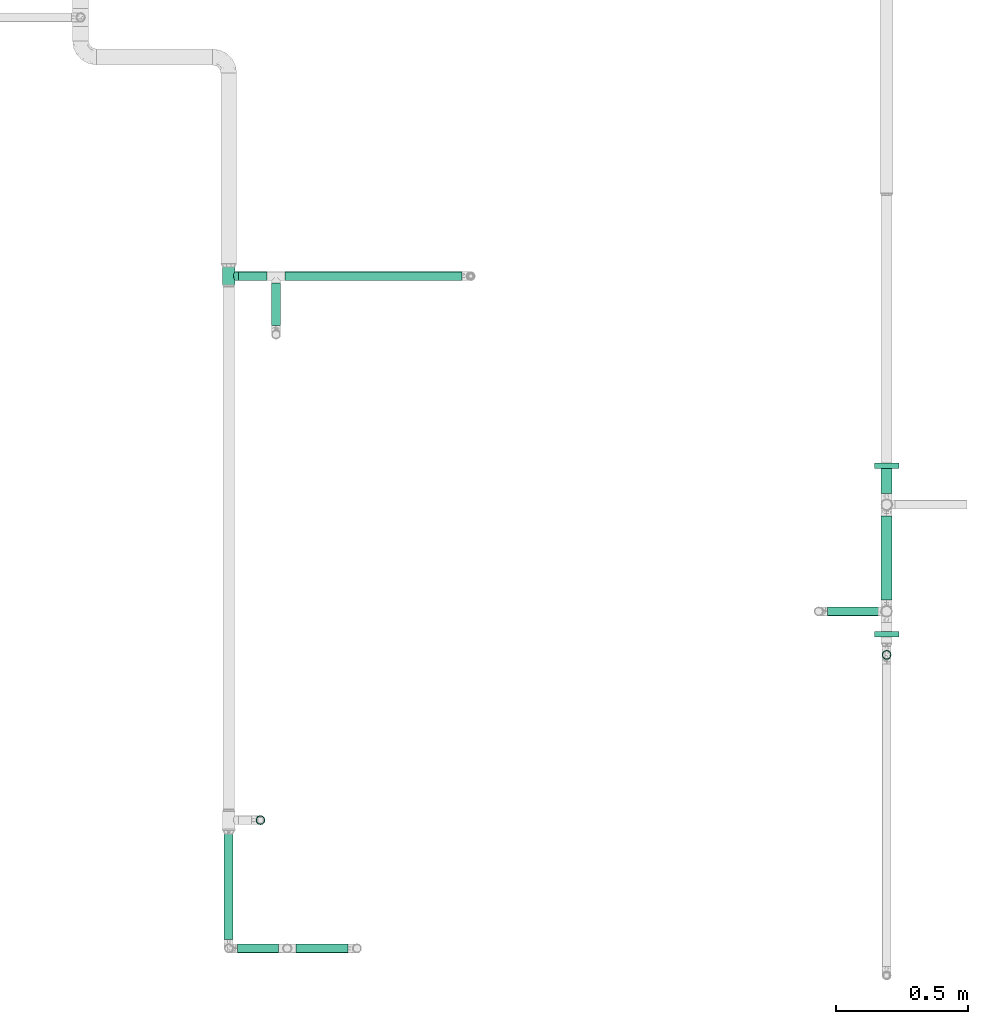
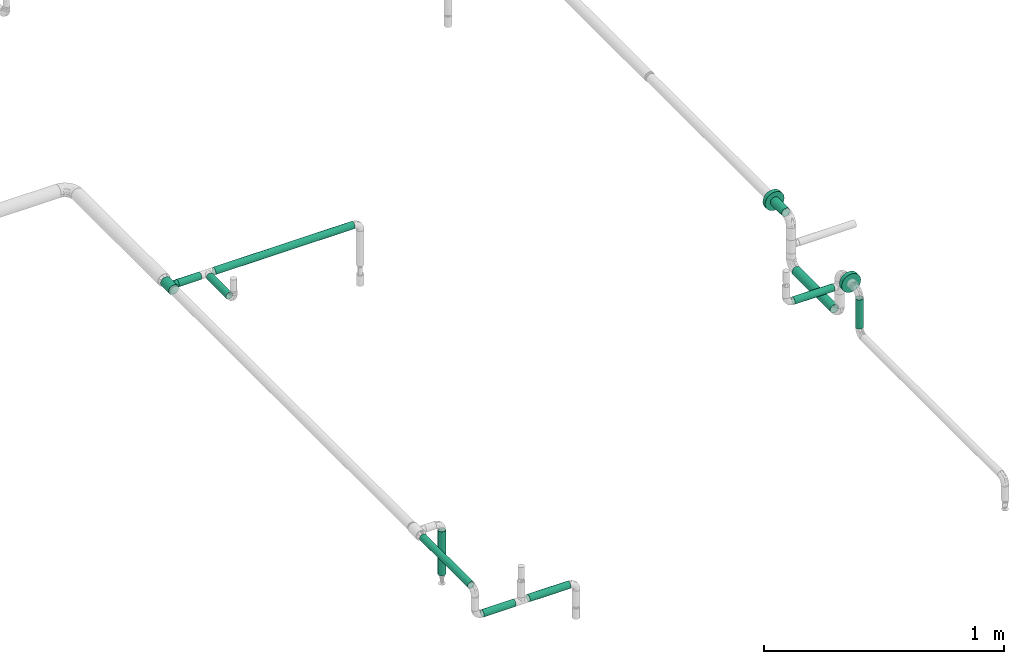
# One storey, part 2 of 43: 11 flow segments, 3 flow fittings.
"""IFC2X3 building model written with IfcOpenShell, lengths in millimetres."""

import ifcopenshell
import ifcopenshell.guid

model = None  # the IFC model being written
_history = None  # IfcOwnerHistory: only IFC2X3 demands one
_inside = {}  # id of a spatial element -> (the spatial element, [elements in it])
_under = {}  # id of a project, library or spatial element -> (it, [spatial elements below it])
_declared = {}  # id of a project -> (the project, [libraries it declares])
_typed = {}  # id of a type object -> (the type object, [elements of that type])
_made_of = {}  # id of a material, layer set ... -> (it, [elements and type objects made of it])


def new_model(schema):
    """Start an empty IFC model of exactly this schema.

    Asked for "IFC4X3", IfcOpenShell would pick the latest addendum, in which some entities
    have other attributes; the version numbers below select the first issue.
    IFC2X3 requires an IfcOwnerHistory on every rooted entity: one is made here for all.
    """
    global model, _history
    if schema == "IFC4X3":
        model = ifcopenshell.file(schema_version=(4, 3, 0, 0))
    else:
        model = ifcopenshell.file(schema=schema)
    _inside.clear()
    _under.clear()
    _declared.clear()
    _typed.clear()
    _made_of.clear()
    _history = None
    if model.schema == "IFC2X3":
        org = make("IfcOrganization", Name="unknown")
        user = make(
            "IfcPersonAndOrganization",
            ThePerson=make("IfcPerson", FamilyName="unknown"),
            TheOrganization=org,
        )
        app = make(
            "IfcApplication",
            ApplicationDeveloper=org,
            Version="unknown",
            ApplicationFullName="unknown",
            ApplicationIdentifier="unknown",
        )
        _history = make(
            "IfcOwnerHistory",
            OwningUser=user,
            OwningApplication=app,
            ChangeAction="ADDED",
            CreationDate=0,
        )
    return model


def make(cls, **values):
    """One entity of the class cls with the attributes given. An attribute that is None is left unset."""
    return model.create_entity(
        cls, **{name: value for name, value in values.items() if value is not None}
    )


def entity(cls, *values):
    """Any entity or typed value of the class cls, its attributes in the order of the schema. None: left unset."""
    e = model.create_entity(cls)
    for i, value in enumerate(values):
        if value is not None:
            e[i] = value
    return e


def rooted(cls, **values):
    """An entity with a GlobalId (a new one), such as an element, a storey or a relation."""
    return make(cls, GlobalId=ifcopenshell.guid.new(), OwnerHistory=_history, **values)


def si_unit(unit_type, name, prefix=None):
    """IfcSIUnit, for example si_unit("LENGTHUNIT", "METRE", prefix="MILLI")."""
    return make("IfcSIUnit", UnitType=unit_type, Prefix=prefix, Name=name)


def converted_unit(unit_type, name, factor, base, dimensions=None, offset=None):
    """IfcConversionBasedUnit, such as the inch: factor (a typed value) times the base unit."""
    return make(
        "IfcConversionBasedUnit"
        if offset is None
        else "IfcConversionBasedUnitWithOffset",
        ConversionOffset=offset,
        Dimensions=None
        if dimensions is None
        else entity("IfcDimensionalExponents", *dimensions),
        UnitType=unit_type,
        Name=name,
        ConversionFactor=make(
            "IfcMeasureWithUnit", ValueComponent=factor, UnitComponent=base
        ),
    )


def derived_unit(unit_type, elements):
    """IfcDerivedUnit: a product of units, each with its exponent."""
    return make(
        "IfcDerivedUnit",
        Elements=[
            make("IfcDerivedUnitElement", Unit=unit, Exponent=power)
            for unit, power in elements
        ],
        UnitType=unit_type,
    )


def assignment(units):
    """IfcUnitAssignment: the units of a project."""
    return None if units is None else make("IfcUnitAssignment", Units=units)


def point(xyz):
    """IfcCartesianPoint."""
    return None if xyz is None else make("IfcCartesianPoint", Coordinates=xyz)


def direction(xyz):
    """IfcDirection."""
    return None if xyz is None else make("IfcDirection", DirectionRatios=xyz)


def frame(location, z_axis=None, x_axis=None):
    """IfcAxis2Placement3D, a coordinate frame: its origin and axes. An axis left out is left unset."""
    return make(
        "IfcAxis2Placement3D",
        Location=point(location),
        Axis=direction(z_axis),
        RefDirection=direction(x_axis),
    )


def frame_2d(location, x_axis=None):
    """IfcAxis2Placement2D, a coordinate frame in the plane: its origin and x axis."""
    return make(
        "IfcAxis2Placement2D", Location=point(location), RefDirection=direction(x_axis)
    )


def origin_with_axes():
    """The frame at (0, 0, 0) with the z axis (0, 0, 1) and the x axis (1, 0, 0) written out."""
    return frame((0.0, 0.0, 0.0), z_axis=(0.0, 0.0, 1.0), x_axis=(1.0, 0.0, 0.0))


def origin_2d_with_axis():
    """The frame at (0, 0) in the plane with the x axis (1, 0) written out."""
    return frame_2d((0.0, 0.0), x_axis=(1.0, 0.0))


def place(relative_to, where):
    """IfcLocalPlacement: puts the frame where relative to a parent placement (None: the world)."""
    return make(
        "IfcLocalPlacement", PlacementRelTo=relative_to, RelativePlacement=where
    )


def context(
    kind, dimensions, precision=None, world=None, true_north=None, identifier=None
):
    """IfcGeometricRepresentationContext, for example the 3D "Model" context."""
    return make(
        "IfcGeometricRepresentationContext",
        ContextIdentifier=identifier,
        ContextType=kind,
        CoordinateSpaceDimension=dimensions,
        Precision=precision,
        WorldCoordinateSystem=world,
        TrueNorth=true_north,
    )


def subcontext(parent, identifier, kind, view, scale=None):
    """IfcGeometricRepresentationSubContext, for example "Body" below "Model"."""
    return make(
        "IfcGeometricRepresentationSubContext",
        ContextIdentifier=identifier,
        ContextType=kind,
        ParentContext=parent,
        TargetScale=scale,
        TargetView=view,
    )


def project(units=None, contexts=None):
    """IfcProject with its units and contexts."""
    return rooted(
        "IfcProject",
        Name="project",
        RepresentationContexts=contexts,
        UnitsInContext=assignment(units),
    )


def spatial(cls, under=None, at=None, **own):
    """A site, building, storey or space (cls), placed at a placement, below another one or the project."""
    s = rooted(cls, ObjectPlacement=at, **own)
    if under is not None:
        _under.setdefault(under.id(), (under, []))[1].append(s)
    return s


def profile(cls, at=None, kind="AREA", **sizes):
    """A parametric profile (cls). Its sizes go by their IFC names, for example OverallWidth=200.0."""
    return make(cls, ProfileType=kind, Position=at, **sizes)


def hollow_circle(**sizes):
    """IfcCircleHollowProfileDef."""
    return profile("IfcCircleHollowProfileDef", **sizes)


def extrude(swept, where, along, depth):
    """IfcExtrudedAreaSolid: the profile swept, set in the frame where, extruded along a direction by depth."""
    return make(
        "IfcExtrudedAreaSolid",
        SweptArea=swept,
        Position=where,
        ExtrudedDirection=direction(along),
        Depth=depth,
    )


def faces_of(points, faces, orient=None, outer=None):
    """IfcFace entities. A face is a list of loops; a loop is a list of indices into points, from 0.

    orient and outer hold one flag for each loop. By default every Orientation is true, the
    first loop of a face is its IfcFaceOuterBound and the others are IfcFaceBound.
    """
    made = []
    for i, loops in enumerate(faces):
        bounds = []
        for j, loop in enumerate(loops):
            is_outer = j == 0 if outer is None else outer[i][j]
            bounds.append(
                make(
                    "IfcFaceOuterBound" if is_outer else "IfcFaceBound",
                    Bound=make("IfcPolyLoop", Polygon=[points[k] for k in loop]),
                    Orientation=True if orient is None else orient[i][j],
                )
            )
        made.append(make("IfcFace", Bounds=bounds))
    return made


def open_shell(faces, orient=None, outer=None):
    """The faces of one IfcOpenShell. surface_model builds it on its shared points."""
    return ("IfcOpenShell", faces, orient, outer)


def surface_model(cls, points, shells):
    """IfcFaceBasedSurfaceModel or IfcShellBasedSurfaceModel (cls): surfaces that need not close."""
    shared = [point(p) for p in points]
    made = [make(c, CfsFaces=faces_of(shared, fs, o, b)) for c, fs, o, b in shells]
    if cls == "IfcFaceBasedSurfaceModel":
        return make(cls, FbsmFaces=made)
    return make(cls, SbsmBoundary=made)


def shape(context_of_items, identifier, shape_type, items):
    """IfcShapeRepresentation: the items that make up one representation, for example the "Body"."""
    return make(
        "IfcShapeRepresentation",
        ContextOfItems=context_of_items,
        RepresentationIdentifier=identifier,
        RepresentationType=shape_type,
        Items=items,
    )


def source(mapping_origin, context_of_items, identifier, shape_type, items):
    """IfcRepresentationMap: a shape defined once, which mapped items show again and again."""
    return make(
        "IfcRepresentationMap",
        MappingOrigin=mapping_origin,
        MappedRepresentation=shape(context_of_items, identifier, shape_type, items),
    )


def transform(
    local_origin,
    x_axis=None,
    y_axis=None,
    z_axis=None,
    scale=None,
    scale2=None,
    scale3=None,
    uniform=True,
):
    """IfcCartesianTransformationOperator3D, or its non-uniform kind. x_axis, y_axis, z_axis: its Axis1, 2, 3."""
    if uniform:
        return make(
            "IfcCartesianTransformationOperator3D",
            Axis1=direction(x_axis),
            Axis2=direction(y_axis),
            LocalOrigin=point(local_origin),
            Scale=scale,
            Axis3=direction(z_axis),
        )
    return make(
        "IfcCartesianTransformationOperator3DnonUniform",
        Axis1=direction(x_axis),
        Axis2=direction(y_axis),
        LocalOrigin=point(local_origin),
        Scale=scale,
        Axis3=direction(z_axis),
        Scale2=scale2,
        Scale3=scale3,
    )


def mapped(mapping_source, mapping_target):
    """IfcMappedItem: shows the shape of a source again, moved by a transform."""
    return make(
        "IfcMappedItem", MappingSource=mapping_source, MappingTarget=mapping_target
    )


def made_of(thing, what):
    """Note that an element or type object is made of a material, layer set ...; save() writes the relation."""
    if what is not None:
        _made_of.setdefault(what.id(), (what, []))[1].append(thing)
    return thing


def type_object(cls, material=None, **own):
    """A type object (cls), such as IfcWallType, which elements share."""
    return made_of(rooted(cls, **own), material)


def element(
    cls,
    number,
    at=None,
    inside=None,
    cuts=None,
    type_object=None,
    material=None,
    context=None,
    identifier="Body",
    shape_type=None,
    held_by="IfcProductDefinitionShape",
    body=None,
    shapes=None,
    **own,
):
    """One element of the class cls, such as IfcWall. Its Tag is "e" and its number.

    at: its placement. inside: the storey or other place that contains it. cuts: it is an
    opening in that element (IfcRelVoidsElement). A single representation is given by context,
    identifier, shape_type and body (its items); several are given by shapes. held_by: the class
    of the entity that holds the representations. save() writes the other relations.
    """
    e = rooted(cls, Tag="e%d" % number, ObjectPlacement=at, **own)
    if body is not None:
        shapes = [shape(context, identifier, shape_type, body)]
    if shapes is not None:
        e.Representation = make(held_by, Representations=shapes)
    if inside is not None:
        _inside.setdefault(inside.id(), (inside, []))[1].append(e)
    if cuts is not None:
        rooted(
            "IfcRelVoidsElement", RelatingBuildingElement=cuts, RelatedOpeningElement=e
        )
    if type_object is not None:
        _typed.setdefault(type_object.id(), (type_object, []))[1].append(e)
    return made_of(e, material)


def aggregate(whole, parts):
    """IfcRelAggregates: a whole, such as a stair, and the parts it consists of."""
    return rooted("IfcRelAggregates", RelatingObject=whole, RelatedObjects=parts)


def save(model, path):
    """Write the relations noted so far, then the file.

    IfcRelAggregates (storeys below a building ...), IfcRelContainedInSpatialStructure (elements
    in a storey), IfcRelDefinesByType, IfcRelAssociatesMaterial and IfcRelDeclares: one each for
    every whole, place, type object, material and project.
    """
    for whole, parts in _under.values():
        aggregate(whole, parts)
    for where, things in _inside.values():
        rooted(
            "IfcRelContainedInSpatialStructure",
            RelatedElements=things,
            RelatingStructure=where,
        )
    for kind, things in _typed.values():
        rooted("IfcRelDefinesByType", RelatedObjects=things, RelatingType=kind)
    for what, things in _made_of.values():
        rooted("IfcRelAssociatesMaterial", RelatedObjects=things, RelatingMaterial=what)
    for by, libraries in _declared.values():
        rooted("IfcRelDeclares", RelatingContext=by, RelatedDefinitions=libraries)
    model.write(path)


model = new_model("IFC2X3")

# Units and contexts
model_context = context("Model", 3, precision=0.01, world=frame((0.0, 4.29681676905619e-09, 0.0)), true_north=direction((4.01073788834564e-13, 1.0)))
plan_context = context("Plan", 3, precision=0.01, world=frame((0.0, 4.29681676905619e-09, 0.0)), true_north=direction((4.01073788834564e-13, 1.0)))
body_context = subcontext(model_context, "Body", "Model", "MODEL_VIEW")
ifc_project = project(units=[converted_unit("PLANEANGLEUNIT", "DEGREE", entity("IfcPositiveLengthMeasure", 0.0174532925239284), si_unit("PLANEANGLEUNIT", "RADIAN"), dimensions=[0, 0, 0, 0, 0, 0, 0]), si_unit("AREAUNIT", "SQUARE_METRE"), si_unit("LENGTHUNIT", "METRE", prefix="MILLI"), si_unit("MASSUNIT", "GRAM", prefix="KILO"), si_unit("POWERUNIT", "WATT"), si_unit("PRESSUREUNIT", "PASCAL"), si_unit("FORCEUNIT", "NEWTON", prefix="KILO"), si_unit("ELECTRICVOLTAGEUNIT", "VOLT"), si_unit("ELECTRICCURRENTUNIT", "AMPERE"), si_unit("THERMODYNAMICTEMPERATUREUNIT", "DEGREE_CELSIUS"), si_unit("TIMEUNIT", "SECOND"), si_unit("VOLUMEUNIT", "CUBIC_METRE"), derived_unit("LINEARVELOCITYUNIT", [(si_unit("LENGTHUNIT", "METRE"), 1), (si_unit("TIMEUNIT", "SECOND"), -1)]), derived_unit("VOLUMETRICFLOWRATEUNIT", [(si_unit("VOLUMEUNIT", "CUBIC_METRE"), 1), (si_unit("TIMEUNIT", "SECOND"), -1)]), derived_unit("THERMALTRANSMITTANCEUNIT", [(si_unit("POWERUNIT", "WATT"), 1), (si_unit("THERMODYNAMICTEMPERATUREUNIT", "KELVIN"), -1), (si_unit("AREAUNIT", "SQUARE_METRE"), -1)]), derived_unit("SOUNDPRESSUREUNIT", [(si_unit("PRESSUREUNIT", "PASCAL"), 1)])], contexts=[model_context, plan_context])

# Site, building, storey
site_placement = place(None, frame((0.0, -4.29681676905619e-09, 0.0), z_axis=(0.0, 0.0, 1.0), x_axis=(1.0, 0.0, 0.0)))
site = spatial("IfcSite", under=ifc_project, at=site_placement, CompositionType="ELEMENT")
building_placement = place(site_placement, frame((0.0, 4.29681676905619e-09, 0.0), z_axis=(0.0, 0.0, 1.0), x_axis=(1.0, 0.0, 0.0)))
building = spatial("IfcBuilding", under=site, at=building_placement, Name="mc-building", CompositionType="ELEMENT")
storey_placement = place(building_placement, frame((0.0, 0.0, 210900.0), z_axis=(0.0, 0.0, 1.0), x_axis=(1.0, 0.0, 0.0)))
storey = spatial("IfcBuildingStorey", under=building, at=storey_placement, Name="Nivå F", CompositionType="ELEMENT", Elevation=210900.0)

# Flow fittings
pipe_fitting_type_1 = type_object("IfcPipeFittingType", Name="magi_pipe_fe_tee_centric_90_NOR", PredefinedType="JUNCTION")
shared_shape_1 = source(origin_with_axes(), body_context, "Body", "SurfaceModel", [
    surface_model("IfcShellBasedSurfaceModel", [(-33.8, 0.0, -24.2), (-33.8, -6.26342, -23.37541), (-33.8, 6.26342, -23.37541), (-33.8, 12.1, -20.95781), (-33.8, 17.11198, -17.11198), (-33.8, 20.95781, -12.1), (-33.8, -23.37541, -6.26342), (-33.8, 23.37541, -6.26342), (-33.8, -17.11198, -17.11198), (-33.8, -20.95781, -12.1), (-33.8, -12.1, -20.95781), (-33.8, -24.2, 0.0), (-33.8, -23.37541, 6.26342), (-33.8, 20.95781, 12.1), (-33.8, 23.37541, 6.26342), (-33.8, 24.2, 0.0), (-33.8, 12.1, 20.95781), (-33.8, 17.11198, 17.11198), (-33.8, -17.11198, 17.11198), (-33.8, 6.26342, 23.37541), (-33.8, -20.95781, 12.1), (-33.8, -12.1, 20.95781), (-33.8, -6.26342, 23.37541), (-33.8, 0.0, 24.2), (33.8, 6.26342, -23.37541), (33.8, -6.26342, -23.37541), (33.8, 0.0, -24.2), (33.8, 17.11198, -17.11198), (33.8, 12.1, -20.95781), (33.8, -23.37541, -6.26342), (33.8, 20.95781, -12.1), (33.8, 23.37541, -6.26342), (33.8, -17.11198, -17.11198), (33.8, -12.1, -20.95781), (33.8, -20.95781, -12.1), (33.8, -24.2, 0.0), (33.8, 24.2, 0.0), (33.8, 23.37541, 6.26342), (33.8, 20.95781, 12.1), (33.8, -23.37541, 6.26342), (33.8, -17.11198, 17.11198), (33.8, 12.1, 20.95781), (33.8, 17.11198, 17.11198), (33.8, 6.26342, 23.37541), (33.8, -20.95781, 12.1), (33.8, -12.1, 20.95781), (33.8, 0.0, 24.2), (33.8, -6.26342, 23.37541), (15.81824, -23.45734, 5.94922), (16.9, -24.2, 0.0), (12.87025, -21.57947, 10.95293), (33.8, -19.0349, 14.60599), (8.52813, -19.30697, 14.59044), (3.03527, -17.5853, 16.6252), (-3.04044, -17.58619, 16.62425), (-8.52961, -19.30762, 14.58958), (-33.8, -19.0349, 14.60599), (-16.9, -24.2, 0.0), (-15.81885, -23.45775, 5.9476), (-12.87368, -21.58151, 10.9489), (3.03527, -17.5853, -16.6252), (33.8, -19.0349, -14.60599), (8.52813, -19.30697, -14.59044), (-8.52961, -19.30762, -14.58958), (-33.8, -19.0349, -14.60599), (12.87025, -21.57947, -10.95293), (-3.04044, -17.58619, -16.62425), (15.81824, -23.45734, -5.94922), (-12.87368, -21.58151, -10.9489), (-15.81885, -23.45775, -5.9476), (4.37404, -36.3, -16.32415), (-16.9, -36.3, 0.0), (0.0, -36.3, -16.9), (14.63583, -36.3, -8.45), (8.45, -36.3, -14.63583), (16.32415, -36.3, -4.37404), (11.9501, -36.3, -11.9501), (-11.9501, -36.3, -11.9501), (-8.45, -36.3, -14.63583), (-4.37404, -36.3, -16.32415), (-14.63583, -36.3, -8.45), (-16.32415, -36.3, -4.37404), (16.9, -36.3, 0.0), (8.45, -36.3, 14.63583), (16.32415, -36.3, 4.37404), (14.63583, -36.3, 8.45), (-8.45, -36.3, 14.63583), (11.9501, -36.3, 11.9501), (4.37404, -36.3, 16.32415), (-16.32415, -36.3, 4.37404), (-11.9501, -36.3, 11.9501), (-14.63583, -36.3, 8.45), (0.0, -36.3, 16.9), (-4.37404, -36.3, 16.32415), (-16.35943, -23.82888, 2.9738), (16.35912, -23.82867, 2.97461), (-0.00259, -17.58575, 16.62472), (16.35912, -23.82867, -2.97461), (-0.00259, -17.58575, -16.62472), (-16.35943, -23.82888, -2.9738)], [open_shell([[[0, 1, 2]], [[3, 2, 4]], [[5, 2, 6]], [[4, 2, 5]], [[7, 5, 6]], [[8, 9, 10]], [[1, 10, 9]], [[1, 9, 2]], [[9, 6, 2]], [[6, 11, 7]], [[11, 12, 7]], [[13, 14, 15]], [[13, 15, 12]], [[16, 17, 18]], [[12, 17, 13]], [[19, 16, 18]], [[20, 18, 12]], [[18, 17, 12]], [[21, 22, 18]], [[23, 18, 22]], [[18, 23, 19]], [[7, 12, 15]], [[24, 25, 26]], [[27, 24, 28]], [[29, 24, 30]], [[30, 24, 27]], [[29, 30, 31]], [[25, 32, 33]], [[32, 25, 34]], [[24, 34, 25]], [[24, 29, 34]], [[31, 35, 29]], [[31, 36, 35]], [[36, 37, 38]], [[39, 36, 38]], [[40, 38, 41]], [[41, 38, 42]], [[40, 41, 43]], [[39, 40, 44]], [[39, 38, 40]], [[45, 46, 47]], [[46, 45, 40]], [[43, 46, 40]], [[36, 39, 35]], [[35, 39, 48]], [[48, 49, 35]], [[39, 50, 48]], [[51, 40, 52]], [[52, 50, 44]], [[53, 52, 40]], [[54, 53, 21]], [[44, 50, 39]], [[55, 18, 56]], [[57, 58, 11]], [[12, 11, 58]], [[58, 59, 12]], [[55, 54, 18]], [[55, 20, 59]], [[20, 55, 56]], [[59, 20, 12]], [[18, 54, 21]], [[52, 44, 51]], [[53, 40, 45]], [[23, 47, 46]], [[22, 45, 47]], [[19, 46, 43]], [[38, 37, 14]], [[17, 41, 42]], [[13, 42, 38]], [[43, 41, 16]], [[15, 37, 36]], [[21, 45, 22]], [[22, 47, 23]], [[19, 23, 46]], [[43, 16, 19]], [[16, 41, 17]], [[13, 17, 42]], [[14, 13, 38]], [[37, 15, 14]], [[45, 21, 53]], [[5, 31, 30]], [[7, 36, 31]], [[4, 30, 27]], [[26, 25, 1]], [[2, 28, 24]], [[0, 24, 26]], [[27, 28, 3]], [[10, 25, 33]], [[15, 36, 7]], [[7, 31, 5]], [[4, 5, 30]], [[27, 3, 4]], [[3, 28, 2]], [[0, 2, 24]], [[1, 0, 26]], [[25, 10, 1]], [[33, 60, 10]], [[61, 34, 62]], [[63, 9, 64]], [[62, 60, 32]], [[34, 65, 62]], [[66, 10, 60]], [[29, 35, 67]], [[67, 65, 29]], [[49, 67, 35]], [[29, 65, 34]], [[66, 63, 8]], [[62, 32, 61]], [[64, 8, 63]], [[63, 68, 9]], [[8, 10, 66]], [[68, 69, 6]], [[69, 11, 6]], [[11, 69, 57]], [[68, 6, 9]], [[60, 33, 32]], [[70, 71, 72]], [[73, 70, 74]], [[73, 75, 70]], [[73, 74, 76]], [[71, 70, 75]], [[72, 77, 78]], [[78, 79, 72]], [[80, 71, 81]], [[77, 72, 80]], [[71, 80, 72]], [[75, 82, 71]], [[83, 82, 84]], [[83, 84, 85]], [[86, 71, 83]], [[83, 85, 87]], [[86, 83, 88]], [[89, 90, 91]], [[90, 89, 86]], [[86, 92, 93]], [[89, 71, 86]], [[88, 92, 86]], [[83, 71, 82]], [[89, 94, 71]], [[59, 91, 90]], [[89, 91, 58]], [[90, 86, 55]], [[89, 58, 94]], [[94, 57, 71]], [[58, 91, 59]], [[95, 48, 84]], [[55, 93, 54]], [[55, 59, 90]], [[92, 53, 96]], [[55, 86, 93]], [[53, 92, 88]], [[83, 52, 88]], [[87, 85, 50]], [[87, 52, 83]], [[48, 85, 84]], [[87, 50, 52]], [[52, 53, 88]], [[82, 95, 84]], [[48, 50, 85]], [[95, 82, 49]], [[92, 54, 93]], [[96, 54, 92]], [[75, 97, 82]], [[65, 73, 76]], [[75, 73, 67]], [[76, 74, 62]], [[97, 49, 82]], [[67, 73, 65]], [[62, 70, 60]], [[62, 65, 76]], [[72, 66, 98]], [[62, 74, 70]], [[99, 71, 57]], [[99, 69, 81]], [[75, 67, 97]], [[79, 66, 72]], [[69, 80, 81]], [[77, 80, 68]], [[72, 60, 70]], [[79, 63, 66]], [[63, 79, 78]], [[78, 77, 63]], [[63, 77, 68]], [[68, 80, 69]], [[71, 99, 81]], [[98, 60, 72]]])]),
])
flow_fitting_placement = place(storey_placement, frame((607879.57252, 692259.33183, 2660.0), z_axis=(0.0, 0.0, 1.0), x_axis=(0.0, 1.0, 0.0)))
element("IfcFlowFitting", 1, at=flow_fitting_placement, inside=storey, type_object=pipe_fitting_type_1, Name="magi_pipe_fe_tee_centric_90_NOR", context=body_context, shape_type="MappedRepresentation", body=[
    mapped(shared_shape_1, transform((0.0, 0.0, 0.0), scale=1.0)),
])
pipe_fitting_type_2 = type_object("IfcPipeFittingType", Name="magi_pipe_fe_joint_001", PredefinedType="CONNECTOR")
shared_shape_2 = source(origin_with_axes(), body_context, "Body", "SurfaceModel", [
    surface_model("IfcShellBasedSurfaceModel", [(20.0, -18.35974, -10.6), (20.0, -21.2, 0.0), (20.0, -20.47763, -5.48696), (0.0, 11.95744, -44.62577), (0.0, 0.0, -46.2), (0.0, 32.66833, -32.66833), (0.0, 23.1, -40.01038), (0.0, 40.01038, -23.1), (0.0, -32.66833, -32.66833), (0.0, -46.2, 0.0), (0.0, -44.62577, 11.95744), (0.0, -23.1, -40.01038), (0.0, -11.95744, -44.62577), (0.0, -44.62577, -11.95744), (0.0, -40.01038, -23.1), (0.0, 44.62577, -11.95744), (0.0, 46.2, 0.0), (0.0, 44.62577, 11.95744), (0.0, 40.01038, 23.1), (0.0, 23.1, 40.01038), (0.0, 32.66833, 32.66833), (0.0, 11.95744, 44.62577), (0.0, 0.0, 46.2), (0.0, -40.01038, 23.1), (0.0, -32.66833, 32.66833), (0.0, -23.1, 40.01038), (0.0, -11.95744, 44.62577), (20.0, 32.66833, -32.66833), (20.0, 0.0, -46.2), (20.0, 11.95744, -44.62577), (20.0, 23.1, -40.01038), (20.0, -40.01038, -23.1), (20.0, 40.01038, -23.1), (20.0, -32.66833, -32.66833), (20.0, 44.62577, -11.95744), (20.0, -11.95744, -44.62577), (20.0, -23.1, -40.01038), (20.0, -46.2, 0.0), (20.0, -44.62577, -11.95744), (20.0, -44.62577, 11.95744), (20.0, 23.1, 40.01038), (20.0, 46.2, 0.0), (20.0, 44.62577, 11.95744), (20.0, 40.01038, 23.1), (20.0, 0.0, 46.2), (20.0, 32.66833, 32.66833), (20.0, 11.95744, 44.62577), (20.0, -32.66833, 32.66833), (20.0, -40.01038, 23.1), (20.0, -23.1, 40.01038), (20.0, -11.95744, 44.62577), (0.0, 0.0, -21.2), (0.0, -5.48696, -20.47763), (0.0, 5.48696, -20.47763), (0.0, 10.6, -18.35974), (0.0, 20.47763, -5.48696), (0.0, 18.35974, -10.6), (0.0, 14.99066, -14.99066), (0.0, -14.99066, -14.99066), (0.0, -18.35974, -10.6), (0.0, -10.6, -18.35974), (0.0, -20.47763, -5.48696), (0.0, -21.2, 0.0), (0.0, -18.35974, 10.6), (0.0, 20.47763, 5.48696), (0.0, 18.35974, 10.6), (0.0, 10.6, 18.35974), (0.0, 14.99066, 14.99066), (0.0, 5.48696, 20.47763), (0.0, 0.0, 21.2), (0.0, -14.99066, 14.99066), (0.0, -10.6, 18.35974), (0.0, -20.47763, 5.48696), (0.0, -5.48696, 20.47763), (0.0, 21.2, 0.0), (20.0, 5.48696, -20.47763), (20.0, -5.48696, -20.47763), (20.0, 0.0, -21.2), (20.0, 14.99066, -14.99066), (20.0, 10.6, -18.35974), (20.0, 18.35974, -10.6), (20.0, 20.47763, -5.48696), (20.0, -10.6, -18.35974), (20.0, -14.99066, -14.99066), (20.0, -20.47763, 5.48696), (20.0, 21.2, 0.0), (20.0, 20.47763, 5.48696), (20.0, 18.35974, 10.6), (20.0, 10.6, 18.35974), (20.0, 14.99066, 14.99066), (20.0, 0.0, 21.2), (20.0, 5.48696, 20.47763), (20.0, -14.99066, 14.99066), (20.0, -18.35974, 10.6), (20.0, -10.6, 18.35974), (20.0, -5.48696, 20.47763)], [open_shell([[[0, 1, 2]], [[3, 4, 5]], [[6, 3, 5]], [[7, 5, 8]], [[4, 8, 5]], [[7, 9, 10]], [[11, 8, 12]], [[8, 4, 12]], [[13, 9, 14]], [[8, 14, 9]], [[8, 9, 7]], [[10, 15, 7]], [[16, 10, 17]], [[18, 17, 19]], [[19, 17, 10]], [[20, 18, 19]], [[21, 19, 22]], [[23, 24, 10]], [[25, 10, 24]], [[26, 22, 25]], [[10, 25, 22]], [[22, 19, 10]], [[15, 10, 16]], [[27, 28, 29]], [[27, 29, 30]], [[31, 27, 32]], [[27, 33, 28]], [[31, 32, 34]], [[35, 33, 36]], [[35, 28, 33]], [[31, 37, 38]], [[31, 33, 27]], [[39, 37, 31]], [[31, 34, 39]], [[40, 41, 42]], [[40, 42, 43]], [[41, 40, 44]], [[40, 43, 45]], [[44, 40, 46]], [[39, 47, 48]], [[47, 39, 49]], [[49, 44, 50]], [[44, 49, 39]], [[39, 41, 44]], [[41, 39, 34]], [[39, 9, 37]], [[48, 10, 39]], [[24, 47, 49]], [[48, 47, 23]], [[25, 49, 50]], [[48, 23, 10]], [[10, 9, 39]], [[26, 44, 22]], [[26, 25, 50]], [[24, 49, 25]], [[24, 23, 47]], [[44, 26, 50]], [[40, 21, 46]], [[45, 19, 40]], [[18, 43, 42]], [[45, 43, 20]], [[17, 42, 41]], [[40, 19, 21]], [[21, 22, 46]], [[17, 18, 42]], [[20, 43, 18]], [[20, 19, 45]], [[16, 17, 41]], [[46, 22, 44]], [[34, 16, 41]], [[32, 15, 34]], [[5, 27, 30]], [[32, 27, 7]], [[6, 30, 29]], [[32, 7, 15]], [[15, 16, 34]], [[3, 28, 4]], [[3, 6, 29]], [[5, 30, 6]], [[5, 7, 27]], [[28, 3, 29]], [[36, 12, 35]], [[33, 11, 36]], [[14, 31, 38]], [[33, 31, 8]], [[13, 38, 37]], [[36, 11, 12]], [[12, 4, 35]], [[13, 14, 38]], [[8, 31, 14]], [[8, 11, 33]], [[9, 13, 37]], [[35, 4, 28]], [[51, 52, 53]], [[54, 53, 55]], [[55, 56, 57]], [[54, 55, 57]], [[55, 53, 52]], [[58, 59, 60]], [[52, 60, 59]], [[61, 62, 59]], [[52, 59, 63]], [[62, 63, 59]], [[55, 52, 63]], [[63, 64, 55]], [[65, 64, 66]], [[66, 64, 63]], [[67, 65, 66]], [[68, 66, 69]], [[70, 71, 63]], [[63, 62, 72]], [[73, 69, 71]], [[66, 63, 71]], [[66, 71, 69]], [[74, 55, 64]], [[75, 76, 77]], [[78, 75, 79]], [[80, 81, 75]], [[80, 75, 78]], [[1, 75, 81]], [[82, 0, 83]], [[0, 82, 76]], [[1, 0, 76]], [[76, 75, 1]], [[81, 84, 1]], [[85, 86, 87]], [[85, 87, 88]], [[85, 88, 84]], [[88, 87, 89]], [[90, 88, 91]], [[84, 92, 93]], [[92, 84, 94]], [[94, 90, 95]], [[94, 84, 88]], [[88, 90, 94]], [[85, 84, 81]], [[84, 62, 1]], [[93, 72, 84]], [[70, 92, 94]], [[93, 92, 63]], [[71, 94, 95]], [[93, 63, 72]], [[72, 62, 84]], [[73, 90, 69]], [[73, 71, 95]], [[70, 94, 71]], [[70, 63, 92]], [[90, 73, 95]], [[88, 68, 91]], [[89, 66, 88]], [[65, 87, 86]], [[89, 87, 67]], [[64, 86, 85]], [[88, 66, 68]], [[68, 69, 91]], [[64, 65, 86]], [[67, 87, 65]], [[67, 66, 89]], [[74, 64, 85]], [[91, 69, 90]], [[81, 74, 85]], [[80, 55, 81]], [[57, 78, 79]], [[80, 78, 56]], [[54, 79, 75]], [[80, 56, 55]], [[55, 74, 81]], [[53, 77, 51]], [[53, 54, 75]], [[57, 79, 54]], [[57, 56, 78]], [[77, 53, 75]], [[82, 52, 76]], [[83, 60, 82]], [[59, 0, 2]], [[83, 0, 58]], [[61, 2, 1]], [[82, 60, 52]], [[52, 51, 76]], [[61, 59, 2]], [[58, 0, 59]], [[58, 60, 83]], [[62, 61, 1]], [[76, 51, 77]]])]),
])
for number, where, z_axis, x_axis, name in (
    (2, (610366.6122, 691552.11616, 2660.0), (0.0, 0.0, 1.0), (0.0, -1.0, 0.0), "magi_pipe_fe_joint_001"),
    (3, (610366.6122, 690915.20027, 2630.0), (0.0, 0.0, 1.0), (0.0, -1.0, 0.0), "magi_pipe_fe_joint_001"),
):
    element("IfcFlowFitting", number, at=place(storey_placement, frame(where, z_axis=z_axis, x_axis=x_axis)), inside=storey, type_object=pipe_fitting_type_2, Name=name, context=body_context, shape_type="MappedRepresentation", body=[
        mapped(shared_shape_2, transform((0.0, 0.0, 0.0), scale=1.0)),
    ])

# Flow segments
pipe_segment_type = type_object("IfcPipeSegmentType", Name="Stålrør normaltykke", PredefinedType="RIGIDSEGMENT")
shared_shape_3 = source(origin_with_axes(), body_context, "Body", "SweptSolid", [
    extrude(hollow_circle(Radius=16.9, WallThickness=2.0, at=origin_2d_with_axis()), frame((0.0, 0.0, 0.0), z_axis=(1.0, 0.0, 0.0), x_axis=(0.0, 1.0, 0.0)), (0.0, 0.0, 1.0), 192.0),
])
flow_segment_1_placement = place(storey_placement, frame((610143.33899, 690991.80919, 2560.0), z_axis=(0.0, 0.0, 1.0), x_axis=(1.0, 0.0, 0.0)))
element("IfcFlowSegment", 4, at=flow_segment_1_placement, inside=storey, type_object=pipe_segment_type, Name="Stålrør normaltykke", context=body_context, shape_type="MappedRepresentation", body=[
    mapped(shared_shape_3, transform((0.0, 0.0, 0.0), scale=1.0)),
])
shared_shape_4 = source(origin_with_axes(), body_context, "Body", "SweptSolid", [
    extrude(hollow_circle(Radius=16.9, WallThickness=2.0, at=origin_2d_with_axis()), frame((0.0, 0.0, 0.0), z_axis=(1.0, 0.0, 0.0), x_axis=(0.0, 1.0, 0.0)), (0.0, 0.0, 1.0), 108.8),
])
flow_segment_2_placement = place(storey_placement, frame((608024.63429, 692259.33183, 2660.0), z_axis=(0.0, 0.0, 1.0), x_axis=(-1.0, 0.0, 0.0)))
element("IfcFlowSegment", 5, at=flow_segment_2_placement, inside=storey, type_object=pipe_segment_type, Name="Stålrør normaltykke", context=body_context, shape_type="MappedRepresentation", body=[
    mapped(shared_shape_4, transform((0.0, 0.0, 0.0), scale=1.0)),
])
shared_shape_5 = source(origin_with_axes(), body_context, "Body", "SweptSolid", [
    extrude(hollow_circle(Radius=16.9, WallThickness=2.0, at=origin_2d_with_axis()), frame((0.0, 0.0, 0.0), z_axis=(1.0, 0.0, 0.0), x_axis=(0.0, 1.0, 0.0)), (0.0, 0.0, 1.0), 162.0),
])
flow_segment_3_placement = place(storey_placement, frame((608058.43429, 692071.97058, 2660.0), z_axis=(0.0, 0.0, 1.0), x_axis=(0.0, 1.0, 0.0)))
element("IfcFlowSegment", 6, at=flow_segment_3_placement, inside=storey, type_object=pipe_segment_type, Name="Stålrør normaltykke", context=body_context, shape_type="MappedRepresentation", body=[
    mapped(shared_shape_5, transform((0.0, 0.0, 0.0), scale=1.0)),
])
shared_shape_6 = source(origin_with_axes(), body_context, "Body", "SweptSolid", [
    extrude(hollow_circle(Radius=21.2, WallThickness=2.0, at=origin_2d_with_axis()), frame((0.0, 0.0, 0.0), z_axis=(1.0, 0.0, 0.0), x_axis=(0.0, 1.0, 0.0)), (0.0, 0.0, 1.0), 94.5),
])
flow_segment_4_placement = place(storey_placement, frame((610366.6122, 691532.11616, 2660.0), z_axis=(0.0, 0.0, 1.0), x_axis=(0.0, -1.0, 0.0)))
element("IfcFlowSegment", 7, at=flow_segment_4_placement, inside=storey, type_object=pipe_segment_type, Name="Stålrør normaltykke", context=body_context, shape_type="MappedRepresentation", body=[
    mapped(shared_shape_6, transform((0.0, 0.0, 0.0), scale=1.0)),
])
shared_shape_7 = source(origin_with_axes(), body_context, "Body", "SweptSolid", [
    extrude(hollow_circle(Radius=21.2, WallThickness=2.0, at=origin_2d_with_axis()), frame((0.0, 0.0, 0.0), z_axis=(1.0, 0.0, 0.0), x_axis=(0.0, 1.0, 0.0)), (0.0, 0.0, 1.0), 318.4),
])
flow_segment_5_placement = place(storey_placement, frame((610366.6122, 691352.78624, 2415.0), z_axis=(0.0, 0.0, 1.0), x_axis=(0.0, -1.0, 0.0)))
element("IfcFlowSegment", 8, at=flow_segment_5_placement, inside=storey, type_object=pipe_segment_type, Name="Stålrør normaltykke", context=body_context, shape_type="MappedRepresentation", body=[
    mapped(shared_shape_7, transform((0.0, 0.0, 0.0), scale=1.0)),
])
shared_shape_8 = source(origin_with_axes(), body_context, "Body", "SweptSolid", [
    extrude(hollow_circle(Radius=16.9, WallThickness=2.0, at=origin_2d_with_axis()), frame((0.0, 0.0, 0.0), z_axis=(1.0, 0.0, 0.0), x_axis=(0.0, 1.0, 0.0)), (0.0, 0.0, 1.0), 223.7),
])
flow_segment_6_placement = place(storey_placement, frame((607999.57252, 690202.7492, 2626.20000000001), z_axis=(-1.0, 0.0, 0.0), x_axis=(0.0, 0.0, -1.0)))
element("IfcFlowSegment", 9, at=flow_segment_6_placement, inside=storey, type_object=pipe_segment_type, Name="Stålrør normaltykke", context=body_context, shape_type="MappedRepresentation", body=[
    mapped(shared_shape_8, transform((0.0, 0.0, 0.0), scale=1.0)),
])
shared_shape_9 = source(origin_with_axes(), body_context, "Body", "SweptSolid", [
    extrude(hollow_circle(Radius=16.9, WallThickness=2.0, at=origin_2d_with_axis()), frame((0.0, 0.0, 0.0), z_axis=(1.0, 0.0, 0.0), x_axis=(0.0, 1.0, 0.0)), (0.0, 0.0, 1.0), 398.9),
])
flow_segment_7_placement = place(storey_placement, frame((607879.57252, 690150.48194, 2660.0), z_axis=(0.0, 0.0, 1.0), x_axis=(0.0, -1.0, 0.0)))
element("IfcFlowSegment", 10, at=flow_segment_7_placement, inside=storey, type_object=pipe_segment_type, Name="Stålrør normaltykke", context=body_context, shape_type="MappedRepresentation", body=[
    mapped(shared_shape_9, transform((0.0, 0.0, 0.0), scale=1.0)),
])
shared_shape_10 = source(origin_with_axes(), body_context, "Body", "SweptSolid", [
    extrude(hollow_circle(Radius=16.9, WallThickness=2.0, at=origin_2d_with_axis()), frame((0.0, 0.0, 0.0), z_axis=(1.0, 0.0, 0.0), x_axis=(0.0, 1.0, 0.0)), (0.0, 0.0, 1.0), 196.2),
])
flow_segment_8_placement = place(storey_placement, frame((608134.62252, 689717.7797, 2524.64999999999), z_axis=(0.0, 0.0, 1.0), x_axis=(1.0, 0.0, 0.0)))
element("IfcFlowSegment", 11, at=flow_segment_8_placement, inside=storey, type_object=pipe_segment_type, Name="Stålrør normaltykke", context=body_context, shape_type="MappedRepresentation", body=[
    mapped(shared_shape_10, transform((0.0, 0.0, 0.0), scale=1.0)),
])
shared_shape_11 = source(origin_with_axes(), body_context, "Body", "SweptSolid", [
    extrude(hollow_circle(Radius=16.9, WallThickness=2.0, at=origin_2d_with_axis()), frame((0.0, 0.0, 0.0), z_axis=(1.0, 0.0, 0.0), x_axis=(0.0, 1.0, 0.0)), (0.0, 0.0, 1.0), 153.7),
])
flow_segment_9_placement = place(storey_placement, frame((607913.37252, 689717.7797, 2524.64999999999), z_axis=(0.0, 0.0, 1.0), x_axis=(1.0, 0.0, 0.0)))
element("IfcFlowSegment", 12, at=flow_segment_9_placement, inside=storey, type_object=pipe_segment_type, Name="Stålrør normaltykke", context=body_context, shape_type="MappedRepresentation", body=[
    mapped(shared_shape_11, transform((0.0, 0.0, 0.0), scale=1.0)),
])
shared_shape_12 = source(origin_with_axes(), body_context, "Body", "SweptSolid", [
    extrude(hollow_circle(Radius=16.9, WallThickness=2.0, at=origin_2d_with_axis()), frame((0.0, 0.0, 0.0), z_axis=(1.0, 0.0, 0.0), x_axis=(0.0, 1.0, 0.0)), (0.0, 0.0, 1.0), 668.5),
])
flow_segment_10_placement = place(storey_placement, frame((608092.23429, 692259.33183, 2660.0), z_axis=(0.0, 0.0, 1.0), x_axis=(1.0, 0.0, 0.0)))
element("IfcFlowSegment", 13, at=flow_segment_10_placement, inside=storey, type_object=pipe_segment_type, Name="Stålrør normaltykke", context=body_context, shape_type="MappedRepresentation", body=[
    mapped(shared_shape_12, transform((0.0, 0.0, 0.0), scale=1.0)),
])
shared_shape_13 = source(origin_with_axes(), body_context, "Body", "SweptSolid", [
    extrude(hollow_circle(Radius=16.9, WallThickness=2.0, at=origin_2d_with_axis()), frame((0.0, 0.0, 0.0), z_axis=(1.0, 0.0, 0.0), x_axis=(0.0, 1.0, 0.0)), (0.0, 0.0, 1.0), 147.4),
])
flow_segment_11_placement = place(storey_placement, frame((610366.6122, 690827.40046, 2596.20000000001), z_axis=(0.0, -1.0, 0.0), x_axis=(0.0, 0.0, -1.0)))
element("IfcFlowSegment", 14, at=flow_segment_11_placement, inside=storey, type_object=pipe_segment_type, Name="Stålrør normaltykke", context=body_context, shape_type="MappedRepresentation", body=[
    mapped(shared_shape_13, transform((0.0, 0.0, 0.0), scale=1.0)),
])

save(model, "model.ifc")
